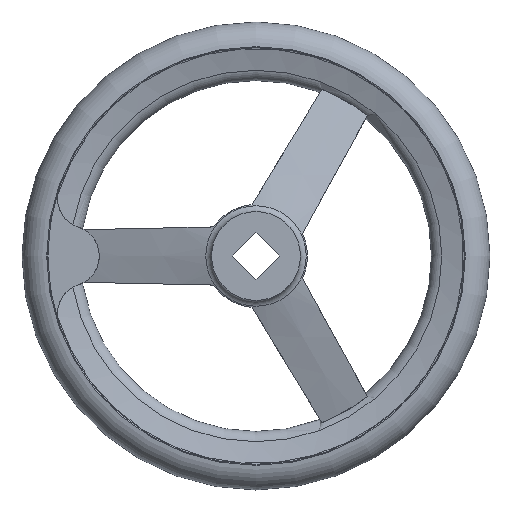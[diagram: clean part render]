
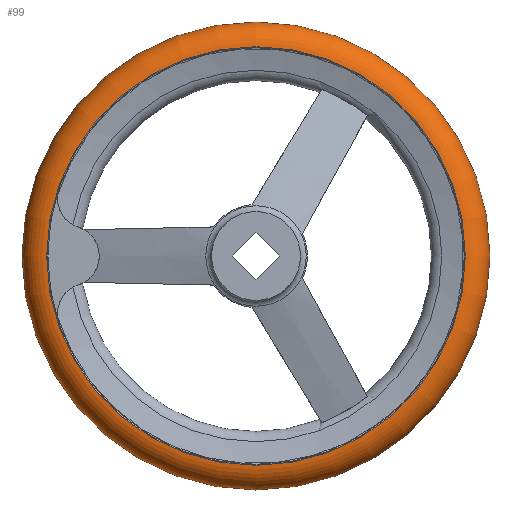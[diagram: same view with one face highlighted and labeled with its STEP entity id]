
A CAD part, left-side view. The second image highlights one B-rep face of the part: STEP entity #99.
In plain terms, the highlighted toroidal (fillet/blend) face has major radius 88.99 mm and minor radius 11.01 mm.
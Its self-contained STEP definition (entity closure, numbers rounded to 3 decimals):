
#99 = ADVANCED_FACE( '', ( #183, #184, #185 ), #186, .T. );
#183 = FACE_BOUND( '', #309, .T. );
#184 = FACE_OUTER_BOUND( '', #310, .T. );
#185 = FACE_OUTER_BOUND( '', #311, .T. );
#186 = TOROIDAL_SURFACE( '', #312, 88.99, 11.01 );
#309 = VERTEX_LOOP( '', #621 );
#310 = EDGE_LOOP( '', ( #622 ) );
#311 = EDGE_LOOP( '', ( #623 ) );
#312 = AXIS2_PLACEMENT_3D( '', #624, #625, #626 );
#621 = VERTEX_POINT( '', #877 );
#622 = ORIENTED_EDGE( '', *, *, #878, .T. );
#623 = ORIENTED_EDGE( '', *, *, #879, .F. );
#624 = CARTESIAN_POINT( '', ( 34., 0., 0. ) );
#625 = DIRECTION( '', ( 1., 0., 0. ) );
#626 = DIRECTION( '', ( 0., 1., 0. ) );
#877 = CARTESIAN_POINT( '', ( 34., 100., 0. ) );
#878 = EDGE_CURVE( '', #1061, #1061, #1062, .T. );
#879 = EDGE_CURVE( '', #1063, #1063, #1064, .T. );
#1061 = VERTEX_POINT( '', #1734 );
#1062 = CIRCLE( '', #1735, 89.458 );
#1063 = VERTEX_POINT( '', #1736 );
#1064 = CIRCLE( '', #1737, 89.458 );
#1734 = CARTESIAN_POINT( '', ( 23., 89.458, 0. ) );
#1735 = AXIS2_PLACEMENT_3D( '', #1918, #1919, #1920 );
#1736 = CARTESIAN_POINT( '', ( 45., 89.458, 0. ) );
#1737 = AXIS2_PLACEMENT_3D( '', #1921, #1922, #1923 );
#1918 = CARTESIAN_POINT( '', ( 23., 0., 0. ) );
#1919 = DIRECTION( '', ( 1., 0., 0. ) );
#1920 = DIRECTION( '', ( 0., 1., 0. ) );
#1921 = CARTESIAN_POINT( '', ( 45., 0., 0. ) );
#1922 = DIRECTION( '', ( 1., 0., 0. ) );
#1923 = DIRECTION( '', ( 0., 1., 0. ) );
